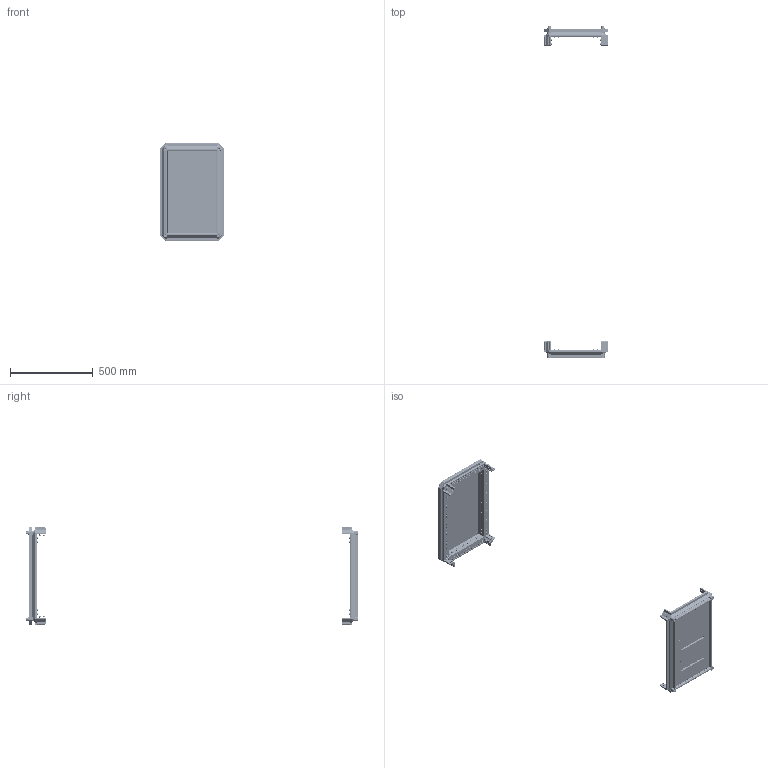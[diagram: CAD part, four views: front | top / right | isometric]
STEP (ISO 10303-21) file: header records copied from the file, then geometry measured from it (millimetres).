
FILE_DESCRIPTION (( 'STEP AP203' ), '1' );
FILE_NAME ('MA1.101.040620.00.00 AleSta-RB46 Êîìïëåêò êðûøà è îñíîâàíèå.STEP', '2025-02-19T13:56:12', ( '' ), ( '' ), 'SwSTEP 2.0', 'SolidWorks 2021', '' );
FILE_SCHEMA (( 'CONFIG_CONTROL_DESIGN' ));
Length unit declared in the file: millimetre
Products named in the file (19): Âèíò ñ âí. øåñòèãðàííèêîì M12 DIN912_•30; Âèíò ðåçüáîâûäàâëèâàþùèé Ì6õ12 DIN 7500E_Œ6å10; Âèíò_ðåçüáîâûäàâëèâàþùèé_Ì5õ12_DIN 7500E_Œ5å12; MA1.101.060620.10.00 ﾊ 600x600_400x600; ﾇﾀﾊﾋﾅﾏﾊﾀ ﾃﾀﾅﾗﾍﾀﾟ ﾘﾅﾑﾒﾈﾃﾐﾀﾍﾍﾀﾟ ﾑ ﾓﾌﾅﾍﾜﾘﾅﾍﾍﾛﾌ ﾁﾎﾐﾒﾎﾌ M4 X 11 (0.5-2.5 ﾌﾌ) HEX U-S ﾖﾈﾍﾊ; MA1.101.060620.20.00 Íèæíÿÿ ïàíåëü 600õ600_400å600; MA1.101.060620.10.01 Ïîëîòíî êðûøè 600õ600_400å600; MA1.101.060620.20.02 Çàêðûòèå íèæíåé ïàíåëè 600õ600_400å600; MA1.101.060620.20.01 Ïîëîòíî íèæíåé ïàíåëè 600õ600_400å600; Øàéáà ñòîïîðíàÿ ñ íàðóæíûìè çóáöàìè SCHNORR, òèï VS öèíêîâûå õëîïüÿ Ì6 O6,4 ART 88121_Œ6; MA1.101.060620.00.02 Ïðîôèëü ïîïåðå÷íûé ñâàðíîé_00 L=298 (˜=400); MA1.101.040620.00.00 AleSta-RB46 Êîìïëåêò êðûøà è îñíîâàíèå; Øïèëüêà Ì6õ12_˜¯¨«ìª  Œ6å12; Óïëîòíèòåëü ïàíåëè íèæíåé_400x600; MA1.101.060620.00.02 Ïðîôèëü ïîïåðå÷íûé ñâàðíîé_01 L=498 (˜=600); MA1.100.060620.00.01 Ñîåäèíèòåëü óãëîâîé_00; ﾘ琺矜 01.019 ﾃﾎﾑﾒ11371-78_12; 7380-2 ISO Âèíòû ñ ïîëóêðóãëîé ãîëîâêîé ñ ôëàíöåì ñ âíóòðåííèì øåñòèãðàííèêîì Ì4õ10; ﾘ琺矜 65ﾃ 019 ﾃﾎﾑﾒ 6402-70_12
Assembly tree (215 placements, depth 3):
  MA1.101.040620.00.00 AleSta-RB46 Êîìïëåêò êðûøà è îñíîâàíèå
    MA1.101.060620.00.02 Ïðîôèëü ïîïåðå÷íûé ñâàðíîé_00 L=298 (˜=400)  x4
    MA1.101.060620.00.02 Ïðîôèëü ïîïåðå÷íûé ñâàðíîé_01 L=498 (˜=600)  x4
    MA1.101.060620.10.00 ﾊ 600x600_400x600
      MA1.101.060620.10.01 Ïîëîòíî êðûøè 600õ600_400å600
      Øïèëüêà Ì6õ12_˜¯¨«ìª  Œ6å12  x4
      Óïëîòíèòåëü ïàíåëè íèæíåé_400x600
    MA1.101.060620.20.00 Íèæíÿÿ ïàíåëü 600õ600_400å600
      MA1.101.060620.20.01 Ïîëîòíî íèæíåé ïàíåëè 600õ600_400å600
      ﾇﾀﾊﾋﾅﾏﾊﾀ ﾃﾀﾅﾗﾍﾀﾟ ﾘﾅﾑﾒﾈﾃﾐﾀﾍﾍﾀﾟ ﾑ ﾓﾌﾅﾍﾜﾘﾅﾍﾍﾛﾌ ﾁﾎﾐﾒﾎﾌ M4 X 11 (0.5-2.5 ﾌﾌ) HEX U-S ﾖﾈﾍﾊ  x4
      MA1.101.060620.20.02 Çàêðûòèå íèæíåé ïàíåëè 600õ600_400å600  x2
      7380-2 ISO Âèíòû ñ ïîëóêðóãëîé ãîëîâêîé ñ ôëàíöåì ñ âíóòðåííèì øåñòèãðàííèêîì Ì4õ10  x4
    Âèíò_ðåçüáîâûäàâëèâàþùèé_Ì5õ12_DIN 7500E_Œ5å12  x8
    MA1.100.060620.00.01 Ñîåäèíèòåëü óãëîâîé_00  x8
    Âèíò ñ âí. øåñòèãðàííèêîì M12 DIN912_•30  x4
    Âèíò ðåçüáîâûäàâëèâàþùèé Ì6õ12 DIN 7500E_Œ6å10  x80
    ﾘ琺矜 01.019 ﾃﾎﾑﾒ11371-78_12  x4
    ﾘ琺矜 65ﾃ 019 ﾃﾎﾑﾒ 6402-70_12  x4
    Øàéáà ñòîïîðíàÿ ñ íàðóæíûìè çóáöàìè SCHNORR, òèï VS öèíêîâûå õëîïüÿ Ì6 O6,4 ART 88121_Œ6  x80
Bounding box: 392 x 2010.9 x 592 mm (x, y, z)
Volume: 2647053.8 mm3; surface area: 2413874.9 mm2
Topology: 213 solids, 213 shells, 11430 faces, 29416 edges, 18416 vertices
Faces by surface type: plane 8414, cylinder 2200, cone 520, bspline 248, torus 48
Entity records: 58056 total; most frequent: CARTESIAN_POINT 12187, DIRECTION 7970, ORIENTED_EDGE 7806, EDGE_CURVE 3903, VECTOR 2882, LINE 2882, AXIS2_PLACEMENT_3D 2544, VERTEX_POINT 2359
